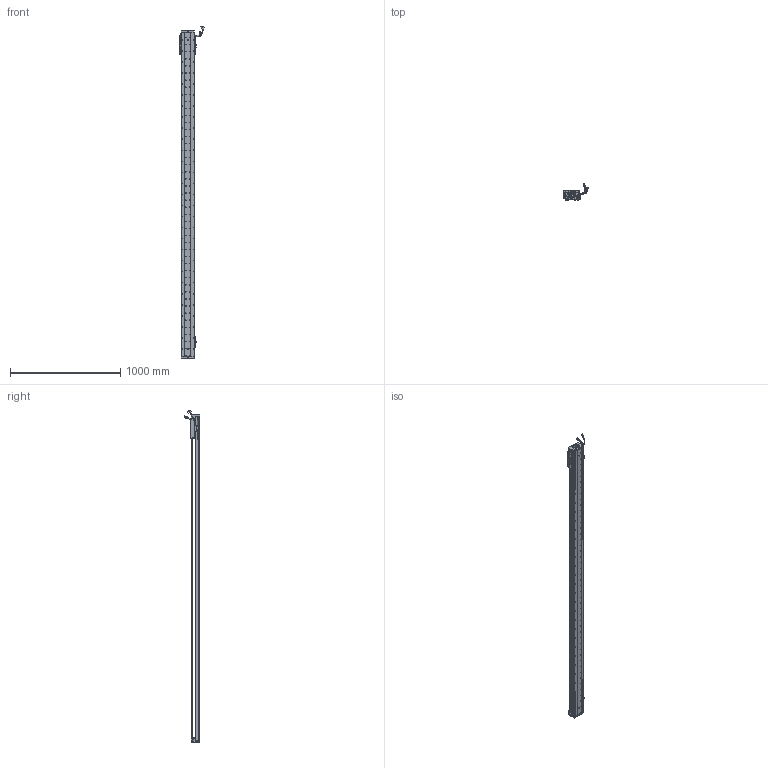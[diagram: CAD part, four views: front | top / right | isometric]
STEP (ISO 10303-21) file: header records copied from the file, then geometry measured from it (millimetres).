
FILE_DESCRIPTION (( 'STEP AP203' ), '1' );
FILE_NAME ('Z2-RY120D-1-L500-B-K.SLDASM_2700.step', '2021-05-17T05:40:00', ( '盈信电脑' ), ( '东莞市道滘镇水果街19号' ), 'SwSTEP 2.0', 'SolidWorks 2016', '' );
FILE_SCHEMA (( 'CONFIG_CONTROL_DESIGN' ));
Length unit declared in the file: millimetre
Products named in the file (37): Z-RY120D詩湍奻揤裔; LABEL; SCREW-M1.6-2; HARNESS; 覜茼ん672; SCREW-M1.6-1; SEAL-Part-1; RY100FB-遵嫖萇覜茼え; SCREW-M1.7; Z2-RY120铝滑块（21款）; COVER; 榋妏寠巭燃_暯_M2_2; Z-RY120D詩湍狟揤裔; PBU_SHEET; 672嫖萇羲壽假蚾釱; SCALE; Z2-RY120-500-倰第菁釱_2700; Z2-RY120D-1-L500-B-K.SLDASM_2700; SCREW-M1.6-3; Z-120詩湍傷裔啣; Z2-RY120-L500詩湍100mm遵_2700; SCREW-M1.7-1; LABEL-Part-1; HARNESS-Part-2; SEAL; HARNESS-Part-1; 140雄赽晤鎢ん堤盄; PSLH080_PSLF2; COVER-Part-1; SCALE-Part-1; 140蚥薯蝶輸; HOLDER0; SCALE-Part-2; 120-Z-臏賑輸盄裔(21遴); SCREW-M1.6; SHIELDPLATE; 080黍杅芛假蚾釱21遴
Assembly tree (43 placements, depth 4):
  Z2-RY120D-1-L500-B-K.SLDASM_2700
    Z2-RY120-500-倰第菁釱_2700
    覜茼ん672  x3
    672嫖萇羲壽假蚾釱  x2
    Z2-RY120铝滑块（21款）
    PSLH080_PSLF2
      SCALE
        SCALE-Part-1
        SCALE-Part-2
      HARNESS
        HARNESS-Part-1
        HARNESS-Part-2
      LABEL
        LABEL-Part-1
      COVER
        COVER-Part-1
      SEAL
        SEAL-Part-1
      榋妏寠巭燃_暯_M2_2
      SHIELDPLATE
      SCREW-M1.7
      SCREW-M1.7-1
      PBU_SHEET
      SCREW-M1.6
      SCREW-M1.6-1
      SCREW-M1.6-2
      SCREW-M1.6-3
      HOLDER0
    080黍杅芛假蚾釱21遴
    120-Z-臏賑輸盄裔(21遴)
    140雄赽晤鎢ん堤盄
    140蚥薯蝶輸  x2
    RY100FB-遵嫖萇覜茼え
    Z-120詩湍傷裔啣  x2
    Z-RY120D詩湍奻揤裔  x2
    Z-RY120D詩湍狟揤裔  x2
    Z2-RY120-L500詩湍100mm遵_2700
Bounding box: 222.83 x 140.94 x 3008.99 mm (x, y, z)
Volume: 6793532.9 mm3; surface area: 2413444.1 mm2
Topology: 38 solids, 38 shells, 3841 faces, 11022 edges, 6956 vertices
Faces by surface type: cylinder 2050, plane 1271, cone 398, torus 69, bspline 53
Entity records: 130871 total; most frequent: CARTESIAN_POINT 40740, ORIENTED_EDGE 18772, DIRECTION 17044, EDGE_CURVE 9386, AXIS2_PLACEMENT_3D 6310, VERTEX_POINT 6076, LINE 4424, VECTOR 4424
